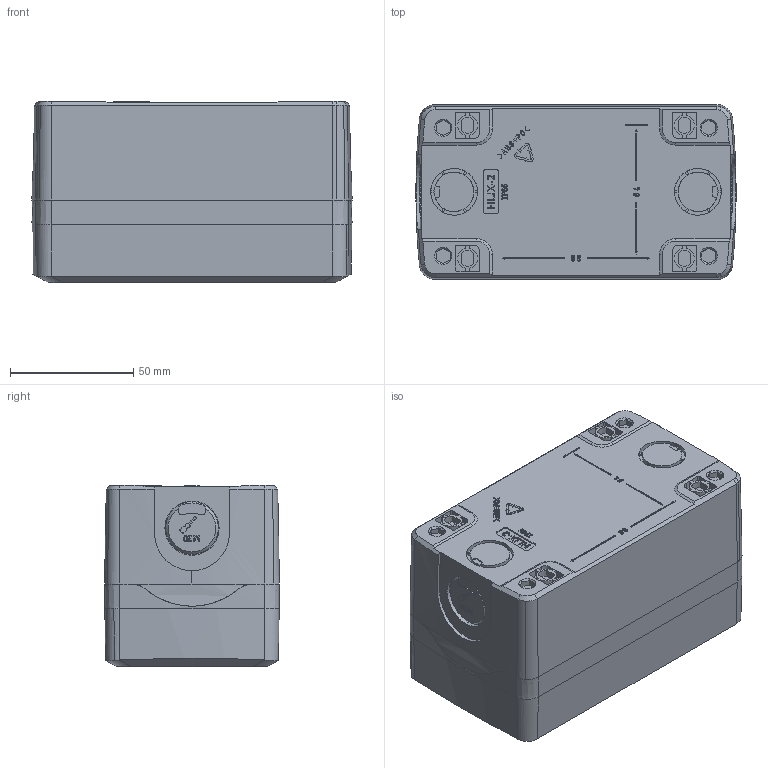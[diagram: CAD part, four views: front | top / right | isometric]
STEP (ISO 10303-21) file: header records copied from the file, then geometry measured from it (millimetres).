
FILE_DESCRIPTION (( 'STEP AP203' ), '1' );
FILE_NAME ('MC02.STEP', '2025-12-12T13:59:22', ( '' ), ( '' ), 'SwSTEP 2.0', 'SolidWorks 2022', '' );
FILE_SCHEMA (( 'CONFIG_CONTROL_DESIGN' ));
Length unit declared in the file: millimetre
Products named in the file (1): MC02
Bounding box: 130 x 71 x 73.5 mm (x, y, z)
Volume: 354259.3 mm3; surface area: 79853.1 mm2
Topology: 1 solids, 1 shells, 1108 faces, 3012 edges, 1994 vertices
Faces by surface type: plane 677, bspline 209, cylinder 140, cone 82
Entity records: 41269 total; most frequent: CARTESIAN_POINT 14720, ORIENTED_EDGE 6024, DIRECTION 4604, EDGE_CURVE 3012, VERTEX_POINT 1994, LINE 1982, VECTOR 1982, AXIS2_PLACEMENT_3D 1311
